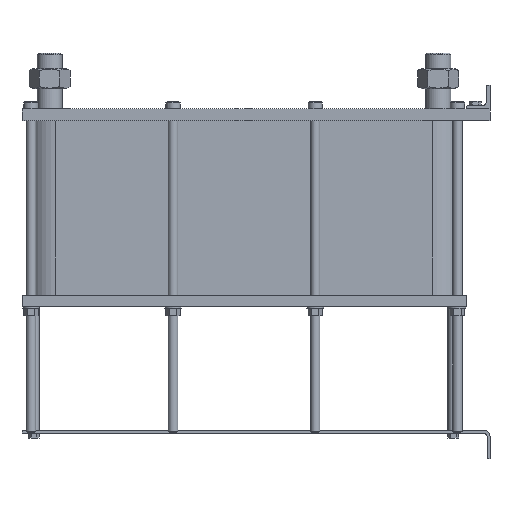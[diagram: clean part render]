
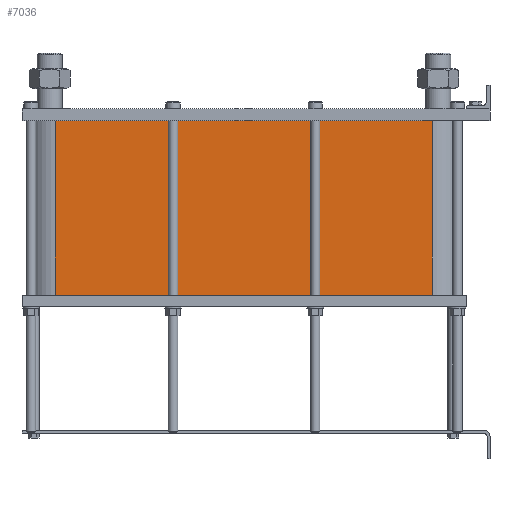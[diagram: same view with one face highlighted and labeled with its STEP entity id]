
A CAD part, left-side view. The second image highlights one B-rep face of the part: STEP entity #7036.
In plain terms, the highlighted planar face has unit normal (-1, 0, 0).
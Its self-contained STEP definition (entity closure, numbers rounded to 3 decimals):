
#999=LINE('',#15640,#1553);
#1031=LINE('',#15723,#1585);
#1032=LINE('',#15726,#1586);
#1033=LINE('',#15727,#1587);
#1553=VECTOR('',#9658,10.);
#1585=VECTOR('',#9736,10.);
#1586=VECTOR('',#9741,10.);
#1587=VECTOR('',#9742,10.);
#2117=FACE_OUTER_BOUND('',#2671,.T.);
#2671=EDGE_LOOP('',(#6246,#6247,#6248,#6249));
#3527=VERTEX_POINT('',#15634);
#3529=VERTEX_POINT('',#15638);
#3556=VERTEX_POINT('',#15720);
#3557=VERTEX_POINT('',#15722);
#4425=EDGE_CURVE('',#3529,#3527,#999,.T.);
#4466=EDGE_CURVE('',#3557,#3556,#1031,.T.);
#4468=EDGE_CURVE('',#3527,#3556,#1032,.T.);
#4469=EDGE_CURVE('',#3557,#3529,#1033,.T.);
#6246=ORIENTED_EDGE('',*,*,#4468,.F.);
#6247=ORIENTED_EDGE('',*,*,#4425,.F.);
#6248=ORIENTED_EDGE('',*,*,#4469,.F.);
#6249=ORIENTED_EDGE('',*,*,#4466,.T.);
#6608=PLANE('',#7812);
#7036=ADVANCED_FACE('',(#2117),#6608,.T.);
#7812=AXIS2_PLACEMENT_3D('',#15725,#9739,#9740);
#9658=DIRECTION('',(0.,0.,-1.));
#9736=DIRECTION('',(0.,0.,-1.));
#9739=DIRECTION('center_axis',(-1.,0.,0.));
#9740=DIRECTION('ref_axis',(0.,1.,0.));
#9741=DIRECTION('',(0.,1.,0.));
#9742=DIRECTION('',(0.,-1.,0.));
#15634=CARTESIAN_POINT('',(-72.,97.5,-294.5));
#15638=CARTESIAN_POINT('',(-72.,97.5,0.));
#15640=CARTESIAN_POINT('',(-72.,97.5,0.));
#15720=CARTESIAN_POINT('',(-72.,733.5,-294.5));
#15722=CARTESIAN_POINT('',(-72.,733.5,0.));
#15723=CARTESIAN_POINT('',(-72.,733.5,0.));
#15725=CARTESIAN_POINT('Origin',(-72.,97.5,0.));
#15726=CARTESIAN_POINT('',(-72.,256.5,-294.5));
#15727=CARTESIAN_POINT('',(-72.,733.5,0.));
